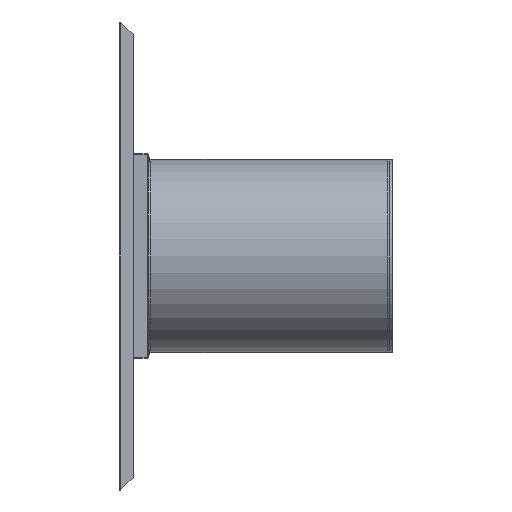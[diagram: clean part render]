
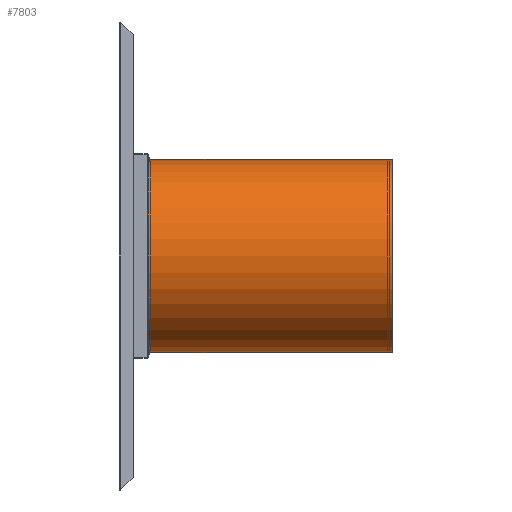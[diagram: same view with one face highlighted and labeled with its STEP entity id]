
A CAD part, left-side view. The second image highlights one B-rep face of the part: STEP entity #7803.
In plain terms, the highlighted cylindrical face has radius 265 mm (diameter 530 mm), a partial arc.
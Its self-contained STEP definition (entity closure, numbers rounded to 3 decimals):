
#116 = ORIENTED_EDGE ( 'NONE', *, *, #1622, .T. ) ;
#756 = VERTEX_POINT ( 'NONE', #8194 ) ;
#1285 = DIRECTION ( 'NONE',  ( 0., 1., 0. ) ) ;
#1622 = EDGE_CURVE ( 'NONE', #756, #3593, #9059, .T. ) ;
#2496 = ORIENTED_EDGE ( 'NONE', *, *, #12040, .F. ) ;
#2550 = AXIS2_PLACEMENT_3D ( 'NONE', #9229, #2956, #15548 ) ;
#2950 = DIRECTION ( 'NONE',  ( 0., -1., 0. ) ) ;
#2956 = DIRECTION ( 'NONE',  ( 0., 1., 0. ) ) ;
#3593 = VERTEX_POINT ( 'NONE', #5912 ) ;
#3779 = ORIENTED_EDGE ( 'NONE', *, *, #15544, .F. ) ;
#3839 = CARTESIAN_POINT ( 'NONE',  ( 0., 0., 0. ) ) ;
#3965 = CARTESIAN_POINT ( 'NONE',  ( 0., 0., 265. ) ) ;
#4227 = CARTESIAN_POINT ( 'NONE',  ( 0., 670., 265. ) ) ;
#5034 = EDGE_CURVE ( 'NONE', #3593, #12129, #9289, .T. ) ;
#5036 = CARTESIAN_POINT ( 'NONE',  ( 0., 670., 0. ) ) ;
#5622 = AXIS2_PLACEMENT_3D ( 'NONE', #3839, #1285, #13798 ) ;
#5782 = EDGE_LOOP ( 'NONE', ( #3779, #2496, #116, #10981 ) ) ;
#5912 = CARTESIAN_POINT ( 'NONE',  ( 0., 0., -265. ) ) ;
#6031 = DIRECTION ( 'NONE',  ( 0., -1., 0. ) ) ;
#6246 = CIRCLE ( 'NONE', #2550, 265. ) ;
#6268 = CYLINDRICAL_SURFACE ( 'NONE', #6702, 265. ) ;
#6702 = AXIS2_PLACEMENT_3D ( 'NONE', #5036, #6031, #9887 ) ;
#7803 = ADVANCED_FACE ( 'NONE', ( #13748 ), #6268, .T. ) ;
#7981 = CARTESIAN_POINT ( 'NONE',  ( 0., 670., -265. ) ) ;
#8194 = CARTESIAN_POINT ( 'NONE',  ( 0., 670., -265. ) ) ;
#9059 = LINE ( 'NONE', #7981, #14937 ) ;
#9229 = CARTESIAN_POINT ( 'NONE',  ( 0., 670., 0. ) ) ;
#9289 = CIRCLE ( 'NONE', #5622, 265. ) ;
#9813 = CARTESIAN_POINT ( 'NONE',  ( 0., 670., 265. ) ) ;
#9887 = DIRECTION ( 'NONE',  ( 0., 0., -1. ) ) ;
#10559 = VERTEX_POINT ( 'NONE', #9813 ) ;
#10577 = LINE ( 'NONE', #4227, #12348 ) ;
#10981 = ORIENTED_EDGE ( 'NONE', *, *, #5034, .T. ) ;
#12040 = EDGE_CURVE ( 'NONE', #756, #10559, #6246, .T. ) ;
#12129 = VERTEX_POINT ( 'NONE', #3965 ) ;
#12348 = VECTOR ( 'NONE', #15415, 1000. ) ;
#13748 = FACE_OUTER_BOUND ( 'NONE', #5782, .T. ) ;
#13798 = DIRECTION ( 'NONE',  ( 0., 0., 1. ) ) ;
#14937 = VECTOR ( 'NONE', #2950, 1000. ) ;
#15415 = DIRECTION ( 'NONE',  ( 0., -1., 0. ) ) ;
#15544 = EDGE_CURVE ( 'NONE', #10559, #12129, #10577, .T. ) ;
#15548 = DIRECTION ( 'NONE',  ( 0., 0., 1. ) ) ;
